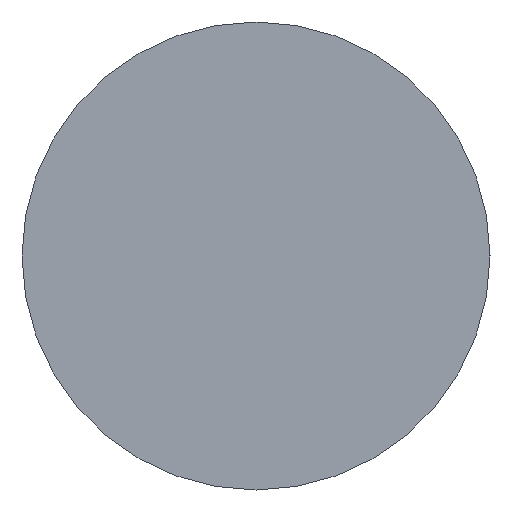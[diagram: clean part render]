
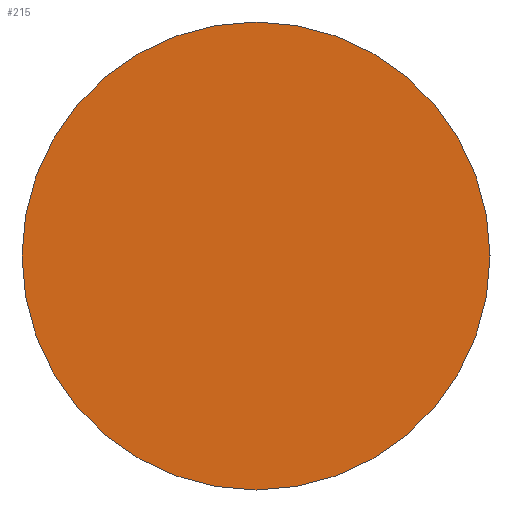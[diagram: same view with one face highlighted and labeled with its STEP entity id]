
A CAD part, left-side view. The second image highlights one B-rep face of the part: STEP entity #215.
In plain terms, the highlighted planar face has unit normal (-1, 0, 0).
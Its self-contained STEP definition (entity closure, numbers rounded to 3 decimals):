
#2 = CIRCLE ( 'NONE', #200, 7. ) ;
#6 = AXIS2_PLACEMENT_3D ( 'NONE', #169, #247, #214 ) ;
#13 = EDGE_CURVE ( 'NONE', #245, #91, #2, .T. ) ;
#32 = EDGE_CURVE ( 'NONE', #91, #245, #162, .T. ) ;
#68 = AXIS2_PLACEMENT_3D ( 'NONE', #241, #102, #254 ) ;
#80 = PLANE ( 'NONE',  #6 ) ;
#87 = DIRECTION ( 'NONE',  ( 1., 0., 0. ) ) ;
#91 = VERTEX_POINT ( 'NONE', #157 ) ;
#94 = EDGE_LOOP ( 'NONE', ( #193, #108 ) ) ;
#102 = DIRECTION ( 'NONE',  ( 1., 0., 0. ) ) ;
#108 = ORIENTED_EDGE ( 'NONE', *, *, #13, .F. ) ;
#133 = CARTESIAN_POINT ( 'NONE',  ( 0., 0., 0. ) ) ;
#134 = CARTESIAN_POINT ( 'NONE',  ( 0., -7., 0. ) ) ;
#157 = CARTESIAN_POINT ( 'NONE',  ( 0., 7., 0. ) ) ;
#162 = CIRCLE ( 'NONE', #68, 7. ) ;
#169 = CARTESIAN_POINT ( 'NONE',  ( 0., 0., 0. ) ) ;
#193 = ORIENTED_EDGE ( 'NONE', *, *, #32, .F. ) ;
#200 = AXIS2_PLACEMENT_3D ( 'NONE', #133, #87, #246 ) ;
#214 = DIRECTION ( 'NONE',  ( 0., -1., 0. ) ) ;
#215 = ADVANCED_FACE ( 'NONE', ( #230 ), #80, .T. ) ;
#230 = FACE_OUTER_BOUND ( 'NONE', #94, .T. ) ;
#241 = CARTESIAN_POINT ( 'NONE',  ( 0., 0., 0. ) ) ;
#245 = VERTEX_POINT ( 'NONE', #134 ) ;
#246 = DIRECTION ( 'NONE',  ( 0., 1., 0. ) ) ;
#247 = DIRECTION ( 'NONE',  ( -1., 0., 0. ) ) ;
#254 = DIRECTION ( 'NONE',  ( 0., 1., 0. ) ) ;
